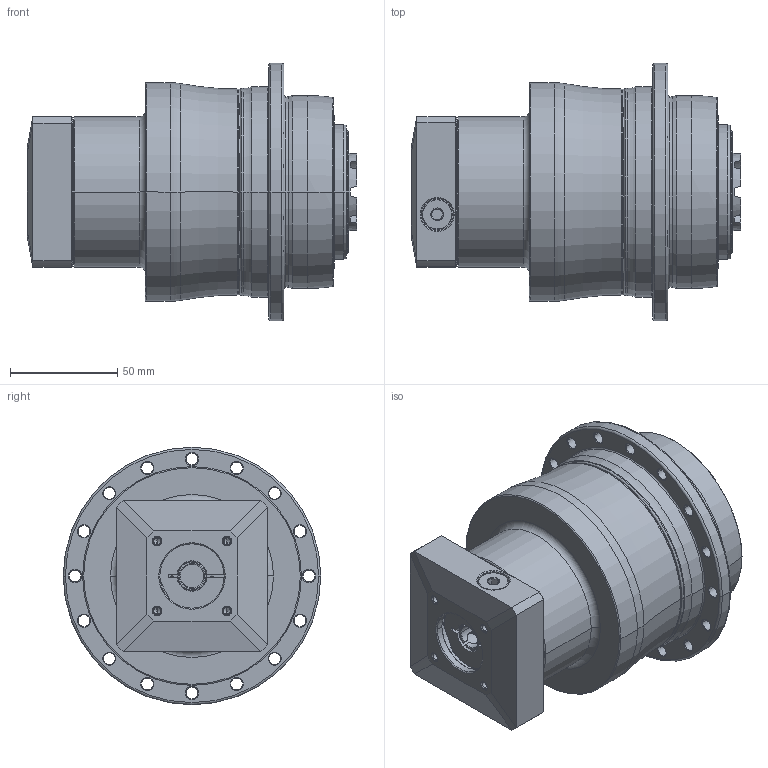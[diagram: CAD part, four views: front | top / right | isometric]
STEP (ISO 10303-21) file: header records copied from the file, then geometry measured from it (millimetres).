
FILE_DESCRIPTION((''),'2;1');
FILE_NAME('APC090_3ST_11-P0409200201_ASM','2018-10-23T',('d01226'),(''),'PRO/ENGINEER BY PARAMETRIC TECHNOLOGY CORPORATION, 2015240','PRO/ENGINEER BY PARAMETRIC TECHNOLOGY CORPORATION, 2015240','');
FILE_SCHEMA(('CONFIG_CONTROL_DESIGN'));
Length unit declared in the file: millimetre
Products named in the file (9): P0278301003; P0359330103; P1366300101; P0503200005; P0912101001; P1211300001; P0409200201; 21711410012; APC090_3ST_11-P0409200201_ASM
Assembly tree (8 placements, depth 2):
  APC090_3ST_11-P0409200201_ASM
    P0278301003
    P0359330103
    P1366300101
    P0503200005
    P0912101001
    P1211300001
    P0409200201
    21711410012
Bounding box: 153.4 x 120 x 120 mm (x, y, z)
Volume: 780588.8 mm3; surface area: 136130.3 mm2
Topology: 9 solids, 19 shells, 585 faces, 1391 edges, 845 vertices
Faces by surface type: cylinder 206, cone 176, plane 119, torus 70, bspline 14
Entity records: 21724 total; most frequent: CARTESIAN_POINT 7717, DIRECTION 3158, ORIENTED_EDGE 2712, EDGE_CURVE 1377, AXIS2_PLACEMENT_3D 1344, VERTEX_POINT 845, CIRCLE 746, EDGE_LOOP 670
